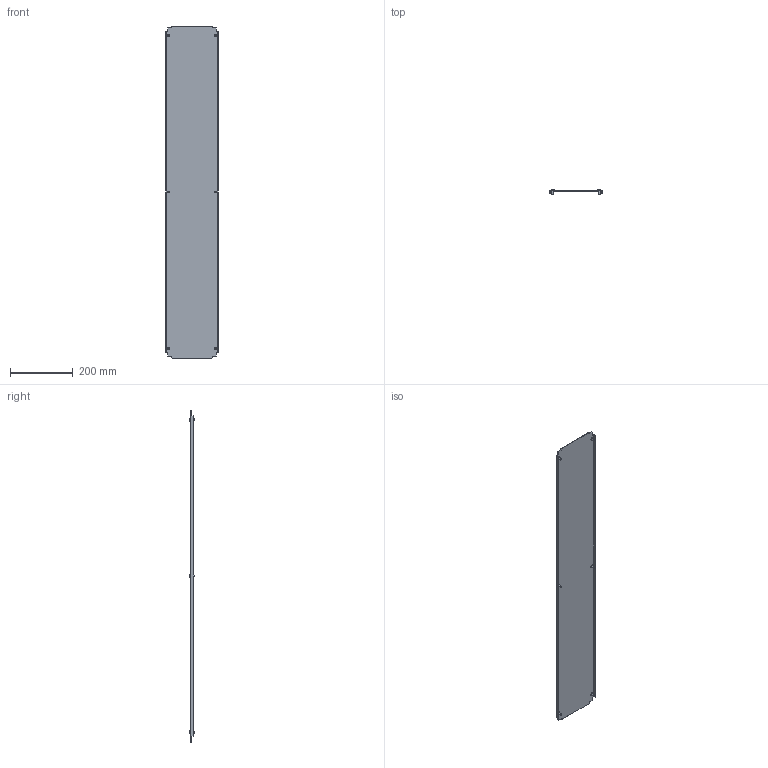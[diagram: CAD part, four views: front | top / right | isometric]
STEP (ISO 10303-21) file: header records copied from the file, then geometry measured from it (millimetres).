
FILE_DESCRIPTION (( 'STEP AP203' ), '1' );
FILE_NAME ('R5N1BP312.STEP', '2025-02-21T13:48:10', ( '' ), ( '' ), 'SwSTEP 2.0', 'SolidWorks 2022', '' );
FILE_SCHEMA (( 'CONFIG_CONTROL_DESIGN' ));
Length unit declared in the file: millimetre
Products named in the file (3): M5x12 DIN 7500 C Torx Zinc_stright; RB.1923.00.00.0_-19; R5N1BP312
Assembly tree (7 placements, depth 2):
  R5N1BP312
    RB.1923.00.00.0_-19
    M5x12 DIN 7500 C Torx Zinc_stright  x6
Bounding box: 168 x 15.56 x 1062 mm (x, y, z)
Volume: 291736 mm3; surface area: 392069.4 mm2
Topology: 7 solids, 7 shells, 166 faces, 384 edges, 238 vertices
Faces by surface type: plane 106, cylinder 24, torus 12, cone 12, sphere 6, bspline 6
Full cylindrical faces by diameter (mm): 5 x6, 9.5 x6
Entity records: 3297 total; most frequent: CARTESIAN_POINT 674, ORIENTED_EDGE 448, DIRECTION 444, EDGE_CURVE 224, VECTOR 180, LINE 180, VERTEX_POINT 150, AXIS2_PLACEMENT_3D 132
